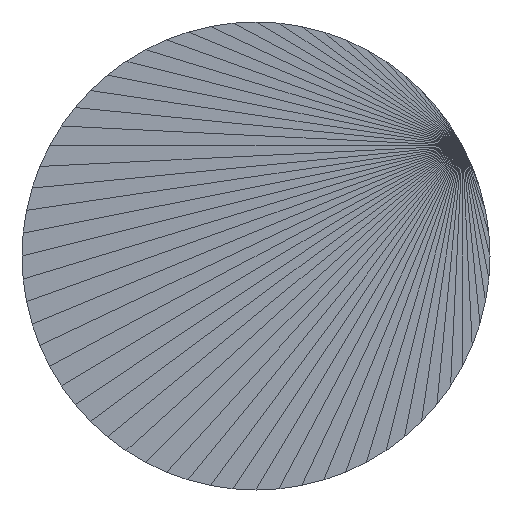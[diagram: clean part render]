
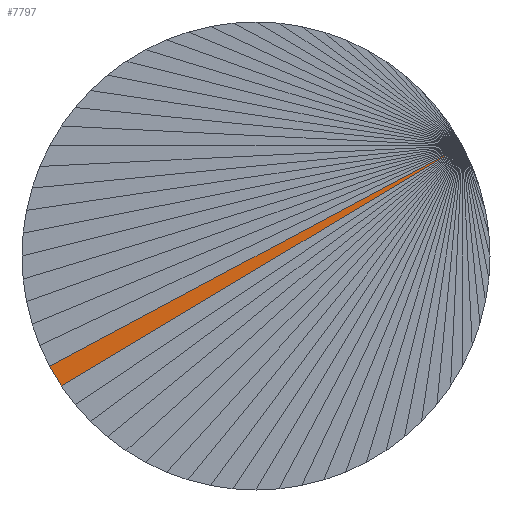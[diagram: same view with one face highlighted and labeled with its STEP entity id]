
A CAD part, front view. The second image highlights one B-rep face of the part: STEP entity #7797.
In plain terms, the highlighted planar face has unit normal (0, -1, 0).
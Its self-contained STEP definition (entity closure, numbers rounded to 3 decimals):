
#1847 = VERTEX_POINT('',#1848);
#1848 = CARTESIAN_POINT('',(-744.169,-1.,436.568));
#5675 = VERTEX_POINT('',#5676);
#5676 = CARTESIAN_POINT('',(-949.776,-1.,313.332));
#5690 = PLANE('',#5691);
#5691 = AXIS2_PLACEMENT_3D('',#5692,#5693,#5694);
#5692 = CARTESIAN_POINT('',(-847.649,-1.,371.052));
#5693 = DIRECTION('',(-0.,-1.,-0.));
#5694 = DIRECTION('',(0.,0.,-1.));
#5826 = PLANE('',#5827);
#5827 = AXIS2_PLACEMENT_3D('',#5828,#5829,#5830);
#5828 = CARTESIAN_POINT('',(-953.039,-0.458,
    318.775));
#5829 = DIRECTION('',(-0.858,0.,-0.514));
#5830 = DIRECTION('',(0.514,0.,-0.858));
#5842 = EDGE_CURVE('',#5675,#5843,#5845,.T.);
#5843 = VERTEX_POINT('',#5844);
#5844 = CARTESIAN_POINT('',(-955.831,-1.,323.432));
#5845 = SURFACE_CURVE('',#5846,(#5850,#5857),.PCURVE_S1.);
#5846 = LINE('',#5847,#5848);
#5847 = CARTESIAN_POINT('',(-949.776,-1.,313.332));
#5848 = VECTOR('',#5849,1.);
#5849 = DIRECTION('',(-0.514,0.,0.858));
#5850 = PCURVE('',#5826,#5851);
#5851 = DEFINITIONAL_REPRESENTATION('',(#5852),#5856);
#5852 = LINE('',#5853,#5854);
#5853 = CARTESIAN_POINT('',(6.346,0.542));
#5854 = VECTOR('',#5855,1.);
#5855 = DIRECTION('',(-1.,0.));
#5856 = ( GEOMETRIC_REPRESENTATION_CONTEXT(2) 
PARAMETRIC_REPRESENTATION_CONTEXT() REPRESENTATION_CONTEXT('2D SPACE',''
  ) );
#5857 = PCURVE('',#5858,#5863);
#5858 = PLANE('',#5859);
#5859 = AXIS2_PLACEMENT_3D('',#5860,#5861,#5862);
#5860 = CARTESIAN_POINT('',(-850.987,-1.,376.06));
#5861 = DIRECTION('',(-0.,-1.,-0.));
#5862 = DIRECTION('',(0.,0.,-1.));
#5863 = DEFINITIONAL_REPRESENTATION('',(#5864),#5867);
#5864 = B_SPLINE_CURVE_WITH_KNOTS('',1,(#5865,#5866),.UNSPECIFIED.,.F.,
  .F.,(2,2),(0.,11.776),.PIECEWISE_BEZIER_KNOTS.);
#5865 = CARTESIAN_POINT('',(62.729,-98.79));
#5866 = CARTESIAN_POINT('',(52.628,-104.844));
#5867 = ( GEOMETRIC_REPRESENTATION_CONTEXT(2) 
PARAMETRIC_REPRESENTATION_CONTEXT() REPRESENTATION_CONTEXT('2D SPACE',''
  ) );
#5914 = PLANE('',#5915);
#5915 = AXIS2_PLACEMENT_3D('',#5916,#5917,#5918);
#5916 = CARTESIAN_POINT('',(-853.824,-1.,381.368));
#5917 = DIRECTION('',(-0.,-1.,-0.));
#5918 = DIRECTION('',(0.,0.,-1.));
#7123 = EDGE_CURVE('',#5843,#1847,#7124,.T.);
#7124 = SURFACE_CURVE('',#7125,(#7129,#7136),.PCURVE_S1.);
#7125 = LINE('',#7126,#7127);
#7126 = CARTESIAN_POINT('',(-955.831,-1.,323.432));
#7127 = VECTOR('',#7128,1.);
#7128 = DIRECTION('',(0.882,0.,0.471));
#7129 = PCURVE('',#5914,#7130);
#7130 = DEFINITIONAL_REPRESENTATION('',(#7131),#7135);
#7131 = LINE('',#7132,#7133);
#7132 = CARTESIAN_POINT('',(57.936,-102.007));
#7133 = VECTOR('',#7134,1.);
#7134 = DIRECTION('',(-0.471,0.882));
#7135 = ( GEOMETRIC_REPRESENTATION_CONTEXT(2) 
PARAMETRIC_REPRESENTATION_CONTEXT() REPRESENTATION_CONTEXT('2D SPACE',''
  ) );
#7136 = PCURVE('',#5858,#7137);
#7137 = DEFINITIONAL_REPRESENTATION('',(#7138),#7141);
#7138 = B_SPLINE_CURVE_WITH_KNOTS('',1,(#7139,#7140),.UNSPECIFIED.,.F.,
  .F.,(2,2),(0.,240.),.PIECEWISE_BEZIER_KNOTS.);
#7139 = CARTESIAN_POINT('',(52.628,-104.844));
#7140 = CARTESIAN_POINT('',(-60.507,106.817));
#7141 = ( GEOMETRIC_REPRESENTATION_CONTEXT(2) 
PARAMETRIC_REPRESENTATION_CONTEXT() REPRESENTATION_CONTEXT('2D SPACE',''
  ) );
#7776 = EDGE_CURVE('',#1847,#5675,#7777,.T.);
#7777 = SURFACE_CURVE('',#7778,(#7782,#7789),.PCURVE_S1.);
#7778 = LINE('',#7779,#7780);
#7779 = CARTESIAN_POINT('',(-744.169,-1.,436.568));
#7780 = VECTOR('',#7781,1.);
#7781 = DIRECTION('',(-0.858,0.,-0.514));
#7782 = PCURVE('',#5690,#7783);
#7783 = DEFINITIONAL_REPRESENTATION('',(#7784),#7788);
#7784 = LINE('',#7785,#7786);
#7785 = CARTESIAN_POINT('',(-65.515,103.48));
#7786 = VECTOR('',#7787,1.);
#7787 = DIRECTION('',(0.514,-0.858));
#7788 = ( GEOMETRIC_REPRESENTATION_CONTEXT(2) 
PARAMETRIC_REPRESENTATION_CONTEXT() REPRESENTATION_CONTEXT('2D SPACE',''
  ) );
#7789 = PCURVE('',#5858,#7790);
#7790 = DEFINITIONAL_REPRESENTATION('',(#7791),#7794);
#7791 = B_SPLINE_CURVE_WITH_KNOTS('',1,(#7792,#7793),.UNSPECIFIED.,.F.,
  .F.,(2,2),(0.,239.711),.PIECEWISE_BEZIER_KNOTS.);
#7792 = CARTESIAN_POINT('',(-60.507,106.817));
#7793 = CARTESIAN_POINT('',(62.729,-98.79));
#7794 = ( GEOMETRIC_REPRESENTATION_CONTEXT(2) 
PARAMETRIC_REPRESENTATION_CONTEXT() REPRESENTATION_CONTEXT('2D SPACE',''
  ) );
#7797 = ADVANCED_FACE('',(#7798),#5858,.T.);
#7798 = FACE_BOUND('',#7799,.T.);
#7799 = EDGE_LOOP('',(#7800,#7801,#7802));
#7800 = ORIENTED_EDGE('',*,*,#7123,.F.);
#7801 = ORIENTED_EDGE('',*,*,#5842,.F.);
#7802 = ORIENTED_EDGE('',*,*,#7776,.F.);
